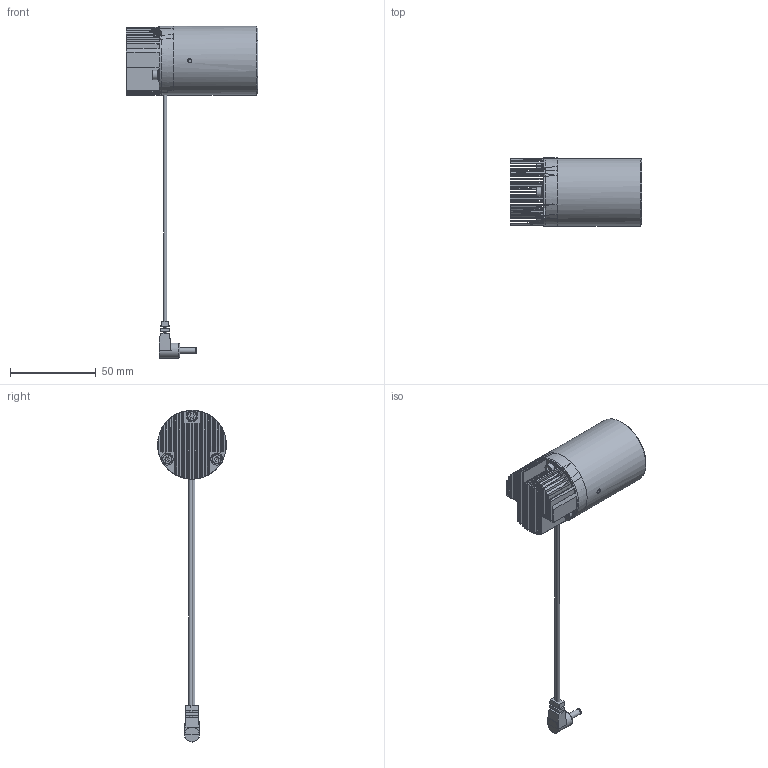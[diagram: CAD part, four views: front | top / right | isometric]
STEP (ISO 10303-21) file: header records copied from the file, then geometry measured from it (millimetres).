
FILE_DESCRIPTION (( 'STEP AP214' ), '1' );
FILE_NAME ('ASSY, VIL151X.STEP', '2024-08-23T09:05:09', ( '' ), ( '' ), 'SwSTEP 2.0', 'SolidWorks 2023', '' );
FILE_SCHEMA (( 'AUTOMOTIVE_DESIGN' ));
Length unit declared in the file: millimetre
Products named in the file (1): ASSY, VIL151X
Bounding box: 77.09 x 40.19 x 194.14 mm (x, y, z)
Surface area: 38061.4 mm2 (no closed solid volume)
Topology: 0 solids, 28 shells, 502 faces, 1176 edges, 621 vertices
Faces by surface type: cylinder 239, plane 160, bspline 86, cone 13, torus 3, sphere 1
Full cylindrical faces by diameter (mm): 1.35 x1, 2.5 x2, 3.3 x1, 3.46 x1, 3.5 x1, 5.5 x3, 7 x3, 8.75 x1, 31.5 x1, 40.2 x1
Entity records: 16807 total; most frequent: CARTESIAN_POINT 6830, DIRECTION 1982, ORIENTED_EDGE 1916, EDGE_CURVE 1066, AXIS2_PLACEMENT_3D 681, LINE 620, VECTOR 620, VERTEX_POINT 606
